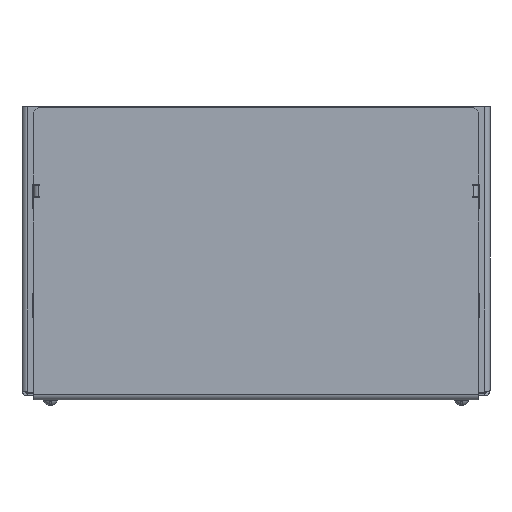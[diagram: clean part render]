
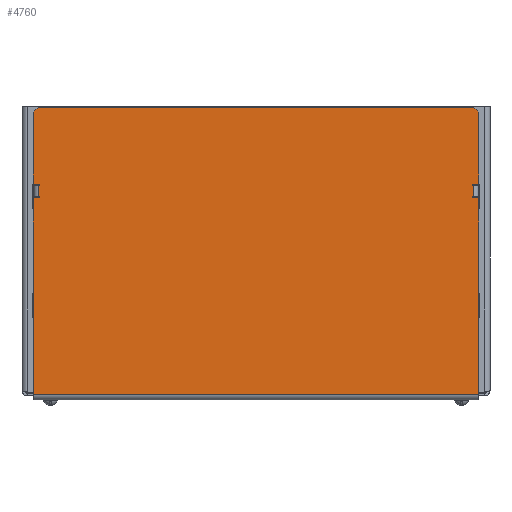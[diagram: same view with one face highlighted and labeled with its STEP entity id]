
A CAD part, left-side view. The second image highlights one B-rep face of the part: STEP entity #4760.
In plain terms, the highlighted planar face has unit normal (-1, 0, 0).
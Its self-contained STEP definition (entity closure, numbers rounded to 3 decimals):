
#4760=ADVANCED_FACE('',(#10981),#10983,.T.);
#10981=FACE_BOUND('',#10982,.T.);
#10982=EDGE_LOOP('',(#15697,#15698,#15699,#15700,#15701,#15702,#15703,#15704,#15705,
#15706,#15707,#15708,#15709,#15710,#15711,#15712,#15713,#15714,#15715,#15716,#15717,
#15718));
#10983=PLANE('',#10984);
#10984=AXIS2_PLACEMENT_3D('',#10985,#10986,#10987);
#10985=CARTESIAN_POINT('',(-115.,0.,-91.5));
#10986=DIRECTION('',(-1.,0.,0.));
#10987=DIRECTION('',(0.,0.,1.));
#15697=ORIENTED_EDGE('',*,*,#17959,.T.);
#15698=ORIENTED_EDGE('',*,*,#17960,.T.);
#15699=ORIENTED_EDGE('',*,*,#17961,.T.);
#15700=ORIENTED_EDGE('',*,*,#17962,.T.);
#15701=ORIENTED_EDGE('',*,*,#17963,.T.);
#15702=ORIENTED_EDGE('',*,*,#17964,.T.);
#15703=ORIENTED_EDGE('',*,*,#17965,.T.);
#15704=ORIENTED_EDGE('',*,*,#17966,.T.);
#15705=ORIENTED_EDGE('',*,*,#17967,.T.);
#15706=ORIENTED_EDGE('',*,*,#17968,.T.);
#15707=ORIENTED_EDGE('',*,*,#17969,.T.);
#15708=ORIENTED_EDGE('',*,*,#17970,.T.);
#15709=ORIENTED_EDGE('',*,*,#17971,.T.);
#15710=ORIENTED_EDGE('',*,*,#17972,.T.);
#15711=ORIENTED_EDGE('',*,*,#17973,.T.);
#15712=ORIENTED_EDGE('',*,*,#17974,.T.);
#15713=ORIENTED_EDGE('',*,*,#17975,.T.);
#15714=ORIENTED_EDGE('',*,*,#17976,.T.);
#15715=ORIENTED_EDGE('',*,*,#17977,.T.);
#15716=ORIENTED_EDGE('',*,*,#17978,.T.);
#15717=ORIENTED_EDGE('',*,*,#17979,.T.);
#15718=ORIENTED_EDGE('',*,*,#17980,.T.);
#17959=EDGE_CURVE('',#20739,#20740,#20741,.T.);
#17960=EDGE_CURVE('',#20740,#20742,#20743,.T.);
#17961=EDGE_CURVE('',#20742,#20744,#20745,.T.);
#17962=EDGE_CURVE('',#20744,#20746,#20747,.T.);
#17963=EDGE_CURVE('',#20746,#20748,#20749,.T.);
#17964=EDGE_CURVE('',#20748,#20750,#20751,.T.);
#17965=EDGE_CURVE('',#20750,#20752,#20753,.T.);
#17966=EDGE_CURVE('',#20752,#20754,#20755,.T.);
#17967=EDGE_CURVE('',#20754,#20756,#20757,.T.);
#17968=EDGE_CURVE('',#20756,#20758,#20759,.T.);
#17969=EDGE_CURVE('',#20758,#20760,#20761,.T.);
#17970=EDGE_CURVE('',#20760,#20762,#20763,.T.);
#17971=EDGE_CURVE('',#20762,#20764,#20765,.T.);
#17972=EDGE_CURVE('',#20764,#20766,#20767,.T.);
#17973=EDGE_CURVE('',#20766,#20768,#20769,.T.);
#17974=EDGE_CURVE('',#20768,#20770,#20771,.T.);
#17975=EDGE_CURVE('',#20770,#20772,#20773,.T.);
#17976=EDGE_CURVE('',#20772,#20774,#20775,.T.);
#17977=EDGE_CURVE('',#20774,#20776,#20777,.T.);
#17978=EDGE_CURVE('',#20776,#20778,#20779,.T.);
#17979=EDGE_CURVE('',#20778,#20780,#20781,.T.);
#17980=EDGE_CURVE('',#20780,#20739,#20782,.T.);
#20739=VERTEX_POINT('',#27951);
#20740=VERTEX_POINT('',#27952);
#20741=LINE('',#27953,#27954);
#20742=VERTEX_POINT('',#27956);
#20743=LINE('',#27957,#27958);
#20744=VERTEX_POINT('',#27960);
#20745=LINE('',#27961,#27962);
#20746=VERTEX_POINT('',#27964);
#20747=LINE('',#27965,#27966);
#20748=VERTEX_POINT('',#27968);
#20749=LINE('',#27969,#27970);
#20750=VERTEX_POINT('',#27972);
#20751=LINE('',#27973,#27974);
#20752=VERTEX_POINT('',#27976);
#20753=LINE('',#27977,#27978);
#20754=VERTEX_POINT('',#27980);
#20755=LINE('',#27981,#27982);
#20756=VERTEX_POINT('',#27984);
#20757=LINE('',#27985,#27986);
#20758=VERTEX_POINT('',#27988);
#20759=LINE('',#27989,#27990);
#20760=VERTEX_POINT('',#27992);
#20761=LINE('',#27993,#27994);
#20762=VERTEX_POINT('',#27996);
#20763=LINE('',#27997,#27998);
#20764=VERTEX_POINT('',#28000);
#20765=LINE('',#28001,#28002);
#20766=VERTEX_POINT('',#28004);
#20767=LINE('',#28005,#28006);
#20768=VERTEX_POINT('',#28008);
#20769=LINE('',#28009,#28010);
#20770=VERTEX_POINT('',#28012);
#20771=LINE('',#28013,#28014);
#20772=VERTEX_POINT('',#28016);
#20773=LINE('',#28017,#28018);
#20774=VERTEX_POINT('',#28020);
#20775=LINE('',#28021,#28022);
#20776=VERTEX_POINT('',#28024);
#20777=LINE('',#28025,#28026);
#20778=VERTEX_POINT('',#28028);
#20779=LINE('',#28029,#28030);
#20780=VERTEX_POINT('',#28032);
#20781=LINE('',#28033,#28034);
#20782=LINE('',#28036,#28037);
#27951=CARTESIAN_POINT('',(-115.,-134.,88.5));
#27952=CARTESIAN_POINT('',(-115.,134.,88.5));
#27953=CARTESIAN_POINT('',(-115.,-134.,88.5));
#27954=VECTOR('',#27955,1.);
#27955=DIRECTION('',(0.,1.,0.));
#27956=CARTESIAN_POINT('',(-115.,137.,85.5));
#27957=CARTESIAN_POINT('',(-115.,134.,88.5));
#27958=VECTOR('',#27959,1.);
#27959=DIRECTION('',(0.,0.707,-0.707));
#27960=CARTESIAN_POINT('',(-115.,137.,41.25));
#27961=CARTESIAN_POINT('',(-115.,137.,85.5));
#27962=VECTOR('',#27963,1.);
#27963=DIRECTION('',(0.,0.,-1.));
#27964=CARTESIAN_POINT('',(-115.,132.95,41.25));
#27965=CARTESIAN_POINT('',(-115.,137.,41.25));
#27966=VECTOR('',#27967,1.);
#27967=DIRECTION('',(0.,-1.,0.));
#27968=CARTESIAN_POINT('',(-115.,132.95,40.5));
#27969=CARTESIAN_POINT('',(-115.,132.95,41.25));
#27970=VECTOR('',#27971,1.);
#27971=DIRECTION('',(0.,0.,-1.));
#27972=CARTESIAN_POINT('',(-115.,133.7,40.5));
#27973=CARTESIAN_POINT('',(-115.,132.95,40.5));
#27974=VECTOR('',#27975,1.);
#27975=DIRECTION('',(0.,1.,0.));
#27976=CARTESIAN_POINT('',(-115.,133.7,33.5));
#27977=CARTESIAN_POINT('',(-115.,133.7,40.5));
#27978=VECTOR('',#27979,1.);
#27979=DIRECTION('',(0.,0.,-1.));
#27980=CARTESIAN_POINT('',(-115.,132.95,33.5));
#27981=CARTESIAN_POINT('',(-115.,133.7,33.5));
#27982=VECTOR('',#27983,1.);
#27983=DIRECTION('',(0.,-1.,0.));
#27984=CARTESIAN_POINT('',(-115.,132.95,32.75));
#27985=CARTESIAN_POINT('',(-115.,132.95,33.5));
#27986=VECTOR('',#27987,1.);
#27987=DIRECTION('',(0.,0.,-1.));
#27988=CARTESIAN_POINT('',(-115.,137.,32.75));
#27989=CARTESIAN_POINT('',(-115.,132.95,32.75));
#27990=VECTOR('',#27991,1.);
#27991=DIRECTION('',(0.,1.,0.));
#27992=CARTESIAN_POINT('',(-115.,137.,-88.2));
#27993=CARTESIAN_POINT('',(-115.,137.,32.75));
#27994=VECTOR('',#27995,1.);
#27995=DIRECTION('',(0.,0.,-1.));
#27996=CARTESIAN_POINT('',(-115.,-137.,-88.2));
#27997=CARTESIAN_POINT('',(-115.,137.,-88.2));
#27998=VECTOR('',#27999,1.);
#27999=DIRECTION('',(0.,-1.,0.));
#28000=CARTESIAN_POINT('',(-115.,-137.,32.75));
#28001=CARTESIAN_POINT('',(-115.,-137.,-88.2));
#28002=VECTOR('',#28003,1.);
#28003=DIRECTION('',(0.,0.,1.));
#28004=CARTESIAN_POINT('',(-115.,-132.95,32.75));
#28005=CARTESIAN_POINT('',(-115.,-137.,32.75));
#28006=VECTOR('',#28007,1.);
#28007=DIRECTION('',(0.,1.,0.));
#28008=CARTESIAN_POINT('',(-115.,-132.95,33.5));
#28009=CARTESIAN_POINT('',(-115.,-132.95,32.75));
#28010=VECTOR('',#28011,1.);
#28011=DIRECTION('',(0.,0.,1.));
#28012=CARTESIAN_POINT('',(-115.,-133.7,33.5));
#28013=CARTESIAN_POINT('',(-115.,-132.95,33.5));
#28014=VECTOR('',#28015,1.);
#28015=DIRECTION('',(0.,-1.,0.));
#28016=CARTESIAN_POINT('',(-115.,-133.7,40.5));
#28017=CARTESIAN_POINT('',(-115.,-133.7,33.5));
#28018=VECTOR('',#28019,1.);
#28019=DIRECTION('',(0.,0.,1.));
#28020=CARTESIAN_POINT('',(-115.,-132.95,40.5));
#28021=CARTESIAN_POINT('',(-115.,-133.7,40.5));
#28022=VECTOR('',#28023,1.);
#28023=DIRECTION('',(0.,1.,0.));
#28024=CARTESIAN_POINT('',(-115.,-132.95,41.25));
#28025=CARTESIAN_POINT('',(-115.,-132.95,40.5));
#28026=VECTOR('',#28027,1.);
#28027=DIRECTION('',(0.,0.,1.));
#28028=CARTESIAN_POINT('',(-115.,-137.,41.25));
#28029=CARTESIAN_POINT('',(-115.,-132.95,41.25));
#28030=VECTOR('',#28031,1.);
#28031=DIRECTION('',(0.,-1.,0.));
#28032=CARTESIAN_POINT('',(-115.,-137.,85.5));
#28033=CARTESIAN_POINT('',(-115.,-137.,41.25));
#28034=VECTOR('',#28035,1.);
#28035=DIRECTION('',(0.,0.,1.));
#28036=CARTESIAN_POINT('',(-115.,-137.,85.5));
#28037=VECTOR('',#28038,1.);
#28038=DIRECTION('',(0.,0.707,0.707));
